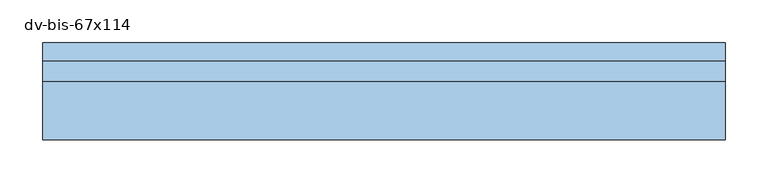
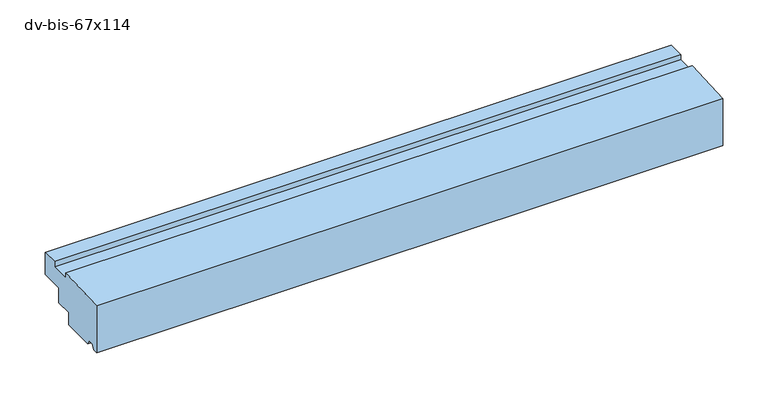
"""IFC4 building model written with IfcOpenShell, lengths in millimetres: window geometry, NLRS_30_WIN_bovendorpel_sh_gen_TOBA-JM : dv-bis-67x114."""

from ifc_helpers import new_model, si_unit, frame, origin, place, context, project, spatial, polyline, outline, extrude, source, transform, mapped, element, save


def dv_bis_67x114_ce80c372(model_context):
    return source(origin(), model_context, "Body", "SweptSolid", [
        extrude(outline(polyline([(68.0, -7.0), (93.0, -7.0), (93.0, 0.0), (114.0, 0.0), (114.0, -30.0), (84.0, -30.0), (84.0, -50.0), (62.0, -50.0), (62.0, -67.0), (20.0, -67.0), (17.0, -61.0), (10.0, -61.0), (7.0, -67.0), (0.0, -67.0), (0.0, -3.563729), (68.0, 0.0), (68.0, -7.0)])), frame((-400.0, 0.0, 0.0), z_axis=(1.0, 0.0, 0.0), x_axis=(0.0, 1.0, 0.0)), (0.0, 0.0, 1.0), 800.0),
    ])


if __name__ == "__main__":
    model = new_model("IFC4")
    model_context = context("Model", 3, world=origin())
    ifc_project = project(units=[si_unit("LENGTHUNIT", "METRE", prefix="MILLI")], contexts=[model_context])
    site = spatial("IfcSite", under=ifc_project)
    building = spatial("IfcBuilding", under=site)
    placement = place(None, origin())
    dv_bis_67x114_shape = dv_bis_67x114_ce80c372(model_context)
    element("IfcWindow", 1, ObjectType="NLRS_30_WIN_bovendorpel_sh_gen_TOBA-JM : dv-bis-67x114", at=placement, inside=building, context=model_context, shape_type="MappedRepresentation", body=[
        mapped(dv_bis_67x114_shape, transform((0.0, 0.0, 0.0), x_axis=(1.0, 0.0, 0.0), y_axis=(0.0, 1.0, 0.0), z_axis=(0.0, 0.0, 1.0))),
    ])
    save(model, "model.ifc")
